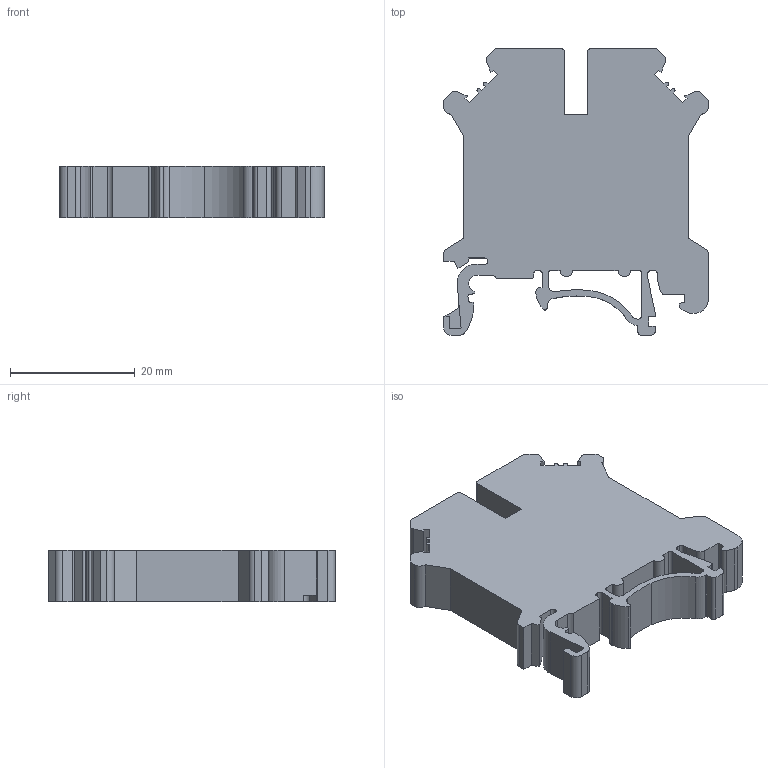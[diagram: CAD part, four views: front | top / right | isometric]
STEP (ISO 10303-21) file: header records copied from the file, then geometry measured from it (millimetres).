
FILE_DESCRIPTION(/* description */ (''),/* implementation_level */ '2;1');
FILE_NAME(/* name */ 'JUT1-6.stp',/* time_stamp */ '2023-02-14T15:06:00+08:00',/* author */ (''),/* organization */ (''),/* preprocessor_version */ 'ST-DEVELOPER v16.7',/* originating_system */ 'SIEMENS PLM Software NX 12.0',/* authorisation */ '');
FILE_SCHEMA (('AP203_CONFIGURATION_CONTROLLED_3D_DESIGN_OF_MECHANICAL_PARTS_AND_ASSEMBLIES_MIM_LF { 1 0 10303 403 2 1 2}'));
Length unit declared in the file: millimetre
Products named in the file (1): Admi01CC23451nr5
Bounding box: 42.5 x 46 x 8.2 mm (x, y, z)
Volume: 11096.8 mm3; surface area: 5265.8 mm2
Topology: 1 solids, 1 shells, 155 faces, 460 edges, 306 vertices
Faces by surface type: plane 99, cylinder 56
Entity records: 5301 total; most frequent: CARTESIAN_POINT 922, ORIENTED_EDGE 920, DIRECTION 885, EDGE_CURVE 460, LINE 347, VECTOR 347, VERTEX_POINT 306, AXIS2_PLACEMENT_3D 269
